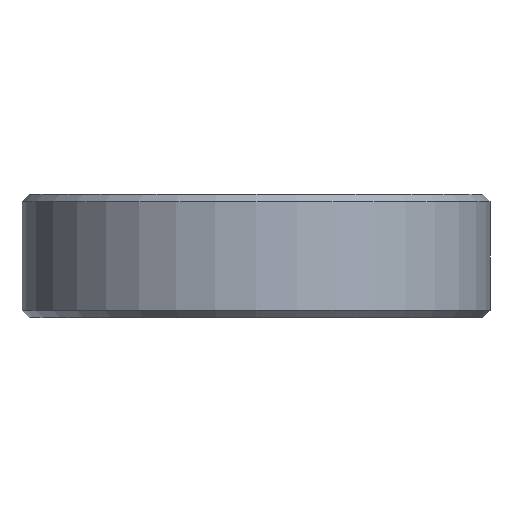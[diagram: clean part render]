
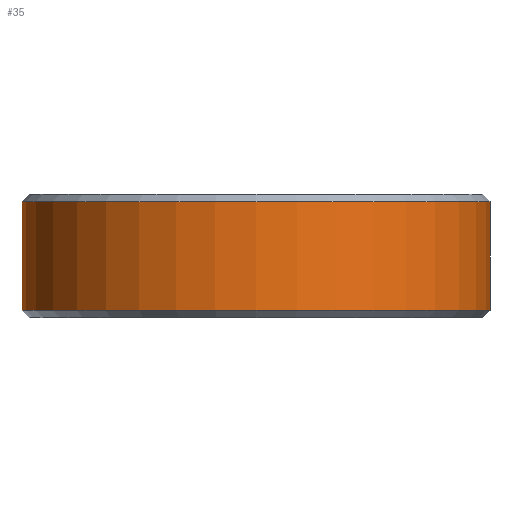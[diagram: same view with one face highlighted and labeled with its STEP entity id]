
A CAD part, front view. The second image highlights one B-rep face of the part: STEP entity #35.
In plain terms, the highlighted cylindrical face has radius 9.5 mm (diameter 19 mm), a full revolution.
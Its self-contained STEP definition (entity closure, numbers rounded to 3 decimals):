
#35 = ADVANCED_FACE('',(#36),#50,.T.);
#36 = FACE_BOUND('',#37,.T.);
#37 = EDGE_LOOP('',(#38,#68,#95,#96));
#38 = ORIENTED_EDGE('',*,*,#39,.T.);
#39 = EDGE_CURVE('',#40,#42,#44,.T.);
#40 = VERTEX_POINT('',#41);
#41 = CARTESIAN_POINT('',(9.5,0.,0.3));
#42 = VERTEX_POINT('',#43);
#43 = CARTESIAN_POINT('',(9.5,0.,4.7));
#44 = SEAM_CURVE('',#45,(#49,#61),.PCURVE_S1.);
#45 = LINE('',#46,#47);
#46 = CARTESIAN_POINT('',(9.5,0.,0.));
#47 = VECTOR('',#48,1.);
#48 = DIRECTION('',(0.,0.,1.));
#49 = PCURVE('',#50,#55);
#50 = CYLINDRICAL_SURFACE('',#51,9.5);
#51 = AXIS2_PLACEMENT_3D('',#52,#53,#54);
#52 = CARTESIAN_POINT('',(0.,0.,0.));
#53 = DIRECTION('',(0.,0.,1.));
#54 = DIRECTION('',(1.,0.,-0.));
#55 = DEFINITIONAL_REPRESENTATION('',(#56),#60);
#56 = LINE('',#57,#58);
#57 = CARTESIAN_POINT('',(6.283,-0.));
#58 = VECTOR('',#59,1.);
#59 = DIRECTION('',(0.,1.));
#60 = ( GEOMETRIC_REPRESENTATION_CONTEXT(2) 
PARAMETRIC_REPRESENTATION_CONTEXT() REPRESENTATION_CONTEXT('2D SPACE',''
  ) );
#61 = PCURVE('',#50,#62);
#62 = DEFINITIONAL_REPRESENTATION('',(#63),#67);
#63 = LINE('',#64,#65);
#64 = CARTESIAN_POINT('',(0.,-0.));
#65 = VECTOR('',#66,1.);
#66 = DIRECTION('',(0.,1.));
#67 = ( GEOMETRIC_REPRESENTATION_CONTEXT(2) 
PARAMETRIC_REPRESENTATION_CONTEXT() REPRESENTATION_CONTEXT('2D SPACE',''
  ) );
#68 = ORIENTED_EDGE('',*,*,#69,.F.);
#69 = EDGE_CURVE('',#42,#42,#70,.T.);
#70 = SURFACE_CURVE('',#71,(#76,#83),.PCURVE_S1.);
#71 = CIRCLE('',#72,9.5);
#72 = AXIS2_PLACEMENT_3D('',#73,#74,#75);
#73 = CARTESIAN_POINT('',(0.,0.,4.7));
#74 = DIRECTION('',(0.,0.,1.));
#75 = DIRECTION('',(1.,0.,-0.));
#76 = PCURVE('',#50,#77);
#77 = DEFINITIONAL_REPRESENTATION('',(#78),#82);
#78 = LINE('',#79,#80);
#79 = CARTESIAN_POINT('',(0.,4.7));
#80 = VECTOR('',#81,1.);
#81 = DIRECTION('',(1.,0.));
#82 = ( GEOMETRIC_REPRESENTATION_CONTEXT(2) 
PARAMETRIC_REPRESENTATION_CONTEXT() REPRESENTATION_CONTEXT('2D SPACE',''
  ) );
#83 = PCURVE('',#84,#89);
#84 = CONICAL_SURFACE('',#85,9.5,0.785);
#85 = AXIS2_PLACEMENT_3D('',#86,#87,#88);
#86 = CARTESIAN_POINT('',(0.,0.,4.7));
#87 = DIRECTION('',(-0.,-0.,-1.));
#88 = DIRECTION('',(1.,0.,0.));
#89 = DEFINITIONAL_REPRESENTATION('',(#90),#94);
#90 = LINE('',#91,#92);
#91 = CARTESIAN_POINT('',(-0.,-0.));
#92 = VECTOR('',#93,1.);
#93 = DIRECTION('',(-1.,-0.));
#94 = ( GEOMETRIC_REPRESENTATION_CONTEXT(2) 
PARAMETRIC_REPRESENTATION_CONTEXT() REPRESENTATION_CONTEXT('2D SPACE',''
  ) );
#95 = ORIENTED_EDGE('',*,*,#39,.F.);
#96 = ORIENTED_EDGE('',*,*,#97,.T.);
#97 = EDGE_CURVE('',#40,#40,#98,.T.);
#98 = SURFACE_CURVE('',#99,(#104,#111),.PCURVE_S1.);
#99 = CIRCLE('',#100,9.5);
#100 = AXIS2_PLACEMENT_3D('',#101,#102,#103);
#101 = CARTESIAN_POINT('',(0.,0.,0.3));
#102 = DIRECTION('',(0.,0.,1.));
#103 = DIRECTION('',(1.,0.,-0.));
#104 = PCURVE('',#50,#105);
#105 = DEFINITIONAL_REPRESENTATION('',(#106),#110);
#106 = LINE('',#107,#108);
#107 = CARTESIAN_POINT('',(0.,0.3));
#108 = VECTOR('',#109,1.);
#109 = DIRECTION('',(1.,0.));
#110 = ( GEOMETRIC_REPRESENTATION_CONTEXT(2) 
PARAMETRIC_REPRESENTATION_CONTEXT() REPRESENTATION_CONTEXT('2D SPACE',''
  ) );
#111 = PCURVE('',#112,#117);
#112 = CONICAL_SURFACE('',#113,9.5,0.785);
#113 = AXIS2_PLACEMENT_3D('',#114,#115,#116);
#114 = CARTESIAN_POINT('',(0.,0.,0.3));
#115 = DIRECTION('',(0.,0.,1.));
#116 = DIRECTION('',(1.,0.,-0.));
#117 = DEFINITIONAL_REPRESENTATION('',(#118),#122);
#118 = LINE('',#119,#120);
#119 = CARTESIAN_POINT('',(0.,-0.));
#120 = VECTOR('',#121,1.);
#121 = DIRECTION('',(1.,-0.));
#122 = ( GEOMETRIC_REPRESENTATION_CONTEXT(2) 
PARAMETRIC_REPRESENTATION_CONTEXT() REPRESENTATION_CONTEXT('2D SPACE',''
  ) );
